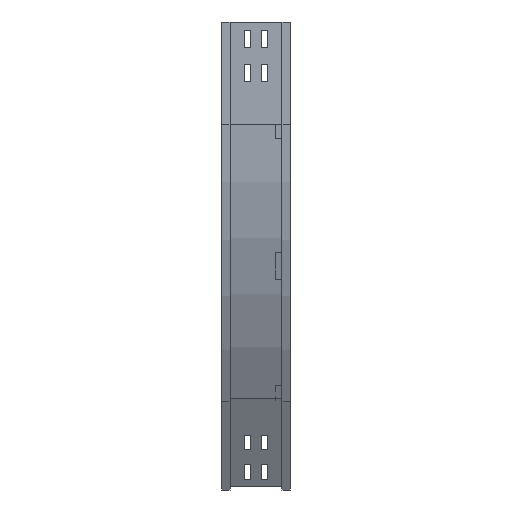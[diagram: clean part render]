
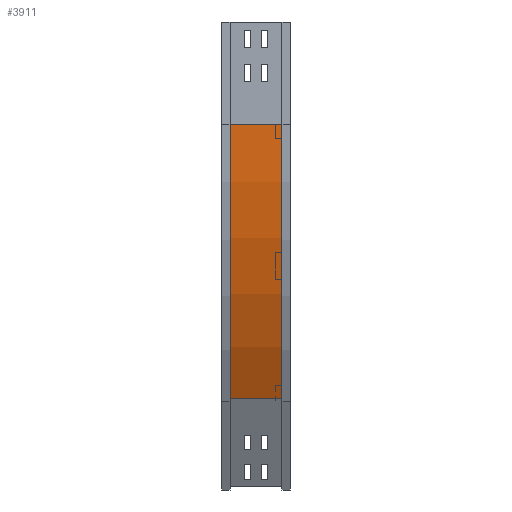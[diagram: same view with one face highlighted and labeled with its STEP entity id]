
A CAD part, left-side view. The second image highlights one B-rep face of the part: STEP entity #3911.
In plain terms, the highlighted cylindrical face has radius 800 mm (diameter 1600 mm), a partial arc.
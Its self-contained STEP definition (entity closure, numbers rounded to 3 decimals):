
#66 = EDGE_CURVE ( 'NONE', #2239, #1804, #178, .T. ) ;
#126 = EDGE_CURVE ( 'NONE', #2239, #2105, #2737, .T. ) ;
#178 = LINE ( 'NONE', #1574, #1716 ) ;
#303 = ORIENTED_EDGE ( 'NONE', *, *, #2874, .T. ) ;
#447 = CARTESIAN_POINT ( 'NONE',  ( 809., 0., -150. ) ) ;
#616 = EDGE_LOOP ( 'NONE', ( #3869, #1488, #1763, #303 ) ) ;
#619 = DIRECTION ( 'NONE',  ( 0., -1., 0. ) ) ;
#822 = CYLINDRICAL_SURFACE ( 'NONE', #2180, 800. ) ;
#965 = DIRECTION ( 'NONE',  ( 0., -1., 0. ) ) ;
#966 = LINE ( 'NONE', #2347, #2745 ) ;
#984 = DIRECTION ( 'NONE',  ( -1., 0., 0. ) ) ;
#1125 = CARTESIAN_POINT ( 'NONE',  ( 9., 88., -150. ) ) ;
#1137 = DIRECTION ( 'NONE',  ( 0., 0., -1. ) ) ;
#1189 = CARTESIAN_POINT ( 'NONE',  ( 809., 12., -150. ) ) ;
#1209 = DIRECTION ( 'NONE',  ( -1., 0., 0. ) ) ;
#1488 = ORIENTED_EDGE ( 'NONE', *, *, #66, .F. ) ;
#1519 = VERTEX_POINT ( 'NONE', #3671 ) ;
#1529 = FACE_OUTER_BOUND ( 'NONE', #616, .T. ) ;
#1574 = CARTESIAN_POINT ( 'NONE',  ( 9., 12., -150. ) ) ;
#1716 = VECTOR ( 'NONE', #2301, 1000. ) ;
#1763 = ORIENTED_EDGE ( 'NONE', *, *, #126, .T. ) ;
#1804 = VERTEX_POINT ( 'NONE', #4309 ) ;
#1880 = CARTESIAN_POINT ( 'NONE',  ( 116.18, 88., -550. ) ) ;
#1886 = CIRCLE ( 'NONE', #2320, 800. ) ;
#2064 = EDGE_CURVE ( 'NONE', #1804, #1519, #1886, .T. ) ;
#2105 = VERTEX_POINT ( 'NONE', #1880 ) ;
#2180 = AXIS2_PLACEMENT_3D ( 'NONE', #447, #3613, #1137 ) ;
#2239 = VERTEX_POINT ( 'NONE', #1125 ) ;
#2286 = DIRECTION ( 'NONE',  ( 0., -1., 0. ) ) ;
#2301 = DIRECTION ( 'NONE',  ( 0., -1., 0. ) ) ;
#2320 = AXIS2_PLACEMENT_3D ( 'NONE', #1189, #2286, #1209 ) ;
#2347 = CARTESIAN_POINT ( 'NONE',  ( 116.18, 12., -550. ) ) ;
#2737 = CIRCLE ( 'NONE', #2886, 800. ) ;
#2745 = VECTOR ( 'NONE', #619, 1000. ) ;
#2874 = EDGE_CURVE ( 'NONE', #2105, #1519, #966, .T. ) ;
#2886 = AXIS2_PLACEMENT_3D ( 'NONE', #3810, #965, #984 ) ;
#3613 = DIRECTION ( 'NONE',  ( 0., -1., 0. ) ) ;
#3671 = CARTESIAN_POINT ( 'NONE',  ( 116.18, 12., -550. ) ) ;
#3810 = CARTESIAN_POINT ( 'NONE',  ( 809., 88., -150. ) ) ;
#3869 = ORIENTED_EDGE ( 'NONE', *, *, #2064, .F. ) ;
#3911 = ADVANCED_FACE ( 'NONE', ( #1529 ), #822, .T. ) ;
#4309 = CARTESIAN_POINT ( 'NONE',  ( 9., 12., -150. ) ) ;
